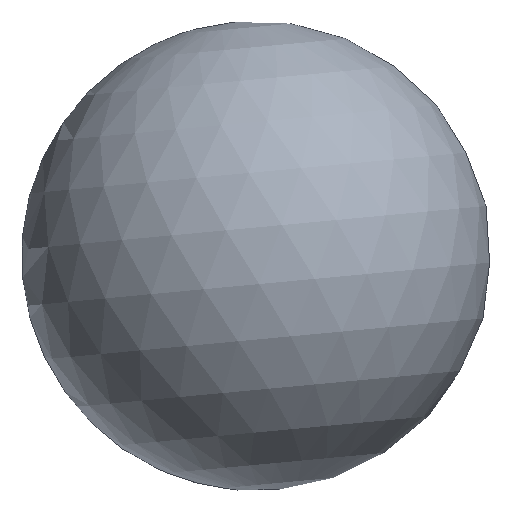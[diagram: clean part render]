
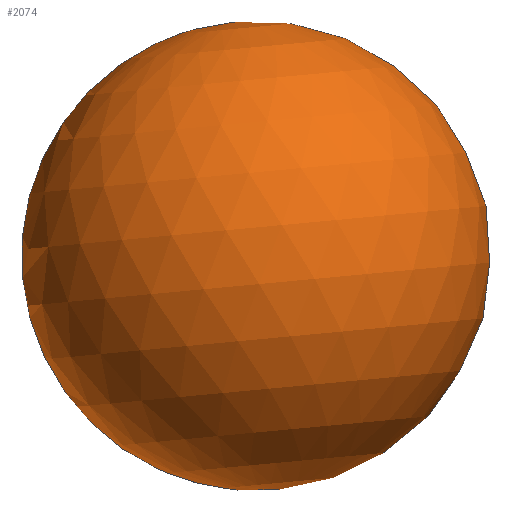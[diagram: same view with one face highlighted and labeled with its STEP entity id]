
A CAD part, front view. The second image highlights one B-rep face of the part: STEP entity #2074.
In plain terms, the highlighted spherical face has radius 150 mm.
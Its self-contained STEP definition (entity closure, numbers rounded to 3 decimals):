
#26=B_SPLINE_CURVE_WITH_KNOTS('',3,(#3444,#3445,#3446,#3447,#3448,#3449,
#3450,#3451,#3452,#3453,#3454,#3455,#3456,#3457,#3458,#3459,#3460,#3461,
#3462,#3463,#3464,#3465,#3466,#3467,#3468,#3469,#3470,#3471,#3472,#3473,
#3474,#3475,#3476,#3477,#3478,#3479,#3480,#3481,#3482),.UNSPECIFIED.,.F.,
 .F.,(4,1,1,1,1,1,1,1,1,1,1,1,1,1,1,1,1,1,1,1,1,1,1,1,1,1,1,1,1,1,1,1,1,
1,1,1,4),(0.,1.36,2.04,2.72,4.08,
5.44,6.347,7.253,9.067,9.973,
10.88,12.693,13.6,14.507,16.32,
17.227,18.133,19.04,19.946,20.853,
21.76,22.666,23.573,24.48,25.386,
26.293,27.2,28.106,29.013,29.92,
30.826,32.64,33.32,34.,35.36,
36.72,38.08),.UNSPECIFIED.);
#32=B_SPLINE_CURVE_WITH_KNOTS('',3,(#3731,#3732,#3733,#3734),
 .UNSPECIFIED.,.F.,.F.,(4,4),(38.08,38.085),
 .UNSPECIFIED.);
#72=FACE_BOUND('',#547,.T.);
#78=SPHERICAL_SURFACE('',#2274,150.);
#411=FACE_OUTER_BOUND('',#546,.T.);
#546=EDGE_LOOP('',(#1399,#1400));
#547=EDGE_LOOP('',(#1401,#1402));
#681=CIRCLE('',#2275,150.);
#828=VERTEX_POINT('',#3437);
#830=VERTEX_POINT('',#3443);
#836=VERTEX_POINT('',#3736);
#837=VERTEX_POINT('',#3737);
#1034=EDGE_CURVE('',#828,#830,#26,.T.);
#1044=EDGE_CURVE('',#830,#828,#32,.T.);
#1045=EDGE_CURVE('',#836,#837,#681,.T.);
#1399=ORIENTED_EDGE('',*,*,#1045,.T.);
#1400=ORIENTED_EDGE('',*,*,#1045,.F.);
#1401=ORIENTED_EDGE('',*,*,#1044,.F.);
#1402=ORIENTED_EDGE('',*,*,#1034,.F.);
#2074=ADVANCED_FACE('',(#411,#72),#78,.T.);
#2274=AXIS2_PLACEMENT_3D('',#3735,#2637,#2638);
#2275=AXIS2_PLACEMENT_3D('',#3738,#2639,#2640);
#2637=DIRECTION('center_axis',(0.093,0.,-0.996));
#2638=DIRECTION('ref_axis',(0.996,0.,0.093));
#2639=DIRECTION('center_axis',(0.,1.,0.));
#2640=DIRECTION('ref_axis',(-0.996,0.,-0.093));
#3437=CARTESIAN_POINT('',(-70.057,-241.807,-6.539));
#3443=CARTESIAN_POINT('',(-70.051,-241.807,-6.595));
#3444=CARTESIAN_POINT('Ctrl Pts',(-70.057,-241.807,-6.539));
#3445=CARTESIAN_POINT('Ctrl Pts',(-70.543,-241.807,-1.331));
#3446=CARTESIAN_POINT('Ctrl Pts',(-70.4,-241.807,6.649));
#3447=CARTESIAN_POINT('Ctrl Pts',(-68.417,-241.807,17.033));
#3448=CARTESIAN_POINT('Ctrl Pts',(-65.338,-241.807,27.035));
#3449=CARTESIAN_POINT('Ctrl Pts',(-59.304,-241.807,38.95));
#3450=CARTESIAN_POINT('Ctrl Pts',(-50.362,-241.807,49.735));
#3451=CARTESIAN_POINT('Ctrl Pts',(-40.798,-241.807,57.646));
#3452=CARTESIAN_POINT('Ctrl Pts',(-28.813,-241.807,64.865));
#3453=CARTESIAN_POINT('Ctrl Pts',(-15.24,-241.807,69.32));
#3454=CARTESIAN_POINT('Ctrl Pts',(-1.309,-241.807,70.611));
#3455=CARTESIAN_POINT('Ctrl Pts',(12.834,-241.807,69.807));
#3456=CARTESIAN_POINT('Ctrl Pts',(26.375,-241.807,65.898));
#3457=CARTESIAN_POINT('Ctrl Pts',(38.767,-241.807,59.032));
#3458=CARTESIAN_POINT('Ctrl Pts',(49.859,-241.807,50.513));
#3459=CARTESIAN_POINT('Ctrl Pts',(58.973,-241.807,39.5));
#3460=CARTESIAN_POINT('Ctrl Pts',(65.254,-241.807,27.004));
#3461=CARTESIAN_POINT('Ctrl Pts',(68.578,-241.807,16.894));
#3462=CARTESIAN_POINT('Ctrl Pts',(70.315,-241.807,6.543));
#3463=CARTESIAN_POINT('Ctrl Pts',(70.516,-241.807,-4.016));
#3464=CARTESIAN_POINT('Ctrl Pts',(69.109,-241.807,-14.536));
#3465=CARTESIAN_POINT('Ctrl Pts',(66.203,-241.807,-24.594));
#3466=CARTESIAN_POINT('Ctrl Pts',(61.763,-241.807,-34.258));
#3467=CARTESIAN_POINT('Ctrl Pts',(55.979,-241.807,-43.052));
#3468=CARTESIAN_POINT('Ctrl Pts',(48.964,-241.807,-50.9));
#3469=CARTESIAN_POINT('Ctrl Pts',(40.762,-241.807,-57.673));
#3470=CARTESIAN_POINT('Ctrl Pts',(31.784,-241.807,-63.064));
#3471=CARTESIAN_POINT('Ctrl Pts',(21.987,-241.807,-67.12));
#3472=CARTESIAN_POINT('Ctrl Pts',(11.718,-241.807,-69.64));
#3473=CARTESIAN_POINT('Ctrl Pts',(1.278,-241.807,-70.616));
#3474=CARTESIAN_POINT('Ctrl Pts',(-9.351,-241.807,-70.));
#3475=CARTESIAN_POINT('Ctrl Pts',(-23.038,-241.807,-67.133));
#3476=CARTESIAN_POINT('Ctrl Pts',(-35.217,-241.807,-61.528));
#3477=CARTESIAN_POINT('Ctrl Pts',(-45.039,-241.807,-54.246));
#3478=CARTESIAN_POINT('Ctrl Pts',(-52.785,-241.807,-47.051));
#3479=CARTESIAN_POINT('Ctrl Pts',(-60.838,-241.807,-36.506));
#3480=CARTESIAN_POINT('Ctrl Pts',(-67.399,-241.807,-22.156));
#3481=CARTESIAN_POINT('Ctrl Pts',(-69.561,-241.807,-11.803));
#3482=CARTESIAN_POINT('Ctrl Pts',(-70.051,-241.807,-6.595));
#3731=CARTESIAN_POINT('Ctrl Pts',(-70.051,-241.807,-6.595));
#3732=CARTESIAN_POINT('Ctrl Pts',(-70.053,-241.807,-6.576));
#3733=CARTESIAN_POINT('Ctrl Pts',(-70.055,-241.807,-6.558));
#3734=CARTESIAN_POINT('Ctrl Pts',(-70.057,-241.807,-6.539));
#3735=CARTESIAN_POINT('Origin',(0.,-374.281,
0.));
#3736=CARTESIAN_POINT('',(13.939,-374.281,-149.351));
#3737=CARTESIAN_POINT('',(-13.939,-374.281,149.351));
#3738=CARTESIAN_POINT('Origin',(0.,-374.281,
0.));
